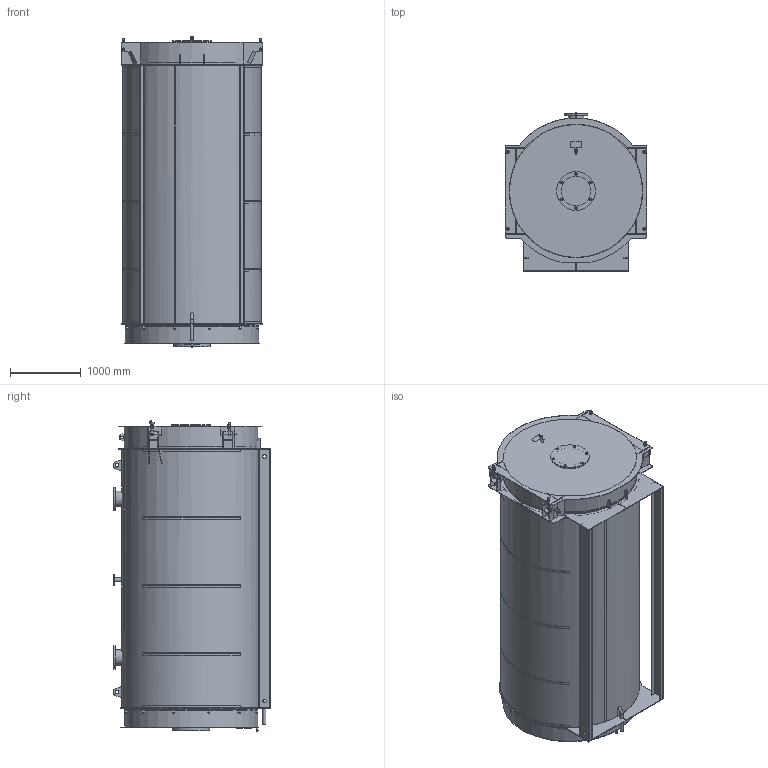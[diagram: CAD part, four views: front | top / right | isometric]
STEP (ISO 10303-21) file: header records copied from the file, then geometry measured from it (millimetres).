
FILE_DESCRIPTION(/* description */ (''),/* implementation_level */ '2;1');
FILE_NAME(/* name */ 'C:\Users\user\Downloads\Водогрейные 2х-ходовые котлы Гейзер\Водогрейные 2х-ходовые котлы Гейзер\3D для проектировщиков\Гейзер 4000 кВт.stp',/* time_stamp */ '2024-07-01T19:16:07+07:00',/* author */ ('user'),/* organization */ (''),/* preprocessor_version */ 'ST-DEVELOPER v18.1',/* originating_system */ 'Autodesk Inventor 2021',/* authorisation */ '');
FILE_SCHEMA (('AUTOMOTIVE_DESIGN { 1 0 10303 214 3 1 1 }'));
Products named in the file (1): Гейзер 4000 кВт
Bounding box: 2000 x 2237.81 x 4405.39 mm (x, y, z)
Volume: 1171783630 mm3; surface area: 124333921.4 mm2
Topology: 167 solids, 170 shells, 3519 faces, 8896 edges, 5711 vertices
Faces by surface type: plane 2331, cylinder 988, cone 163, torus 36, bspline 1
Full cylindrical faces by diameter (mm): 3.4 x4, 4 x1, 5.459 x3, 6 x4, 7 x6, 7.8 x1, 8 x1, 8.7 x3, 8.8 x1, 9 x3, 10.106 x12, 12 x12, 13 x24, 16 x12, 17 x1, 18 x16, 20.752 x8, 20.955 x1, 21.939 x1, 22 x18, 23 x6, 24 x30, 25 x22, 26 x2, 27.1 x1, 30 x8, 30.75 x1, 33.5 x1, 34 x8, 36 x2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
Entity records: 112006 total; most frequent: CARTESIAN_POINT 22422, DIRECTION 18169, ORIENTED_EDGE 17786, EDGE_CURVE 8896, AXIS2_PLACEMENT_3D 6660, VERTEX_POINT 5711, LINE 4849, VECTOR 4849
